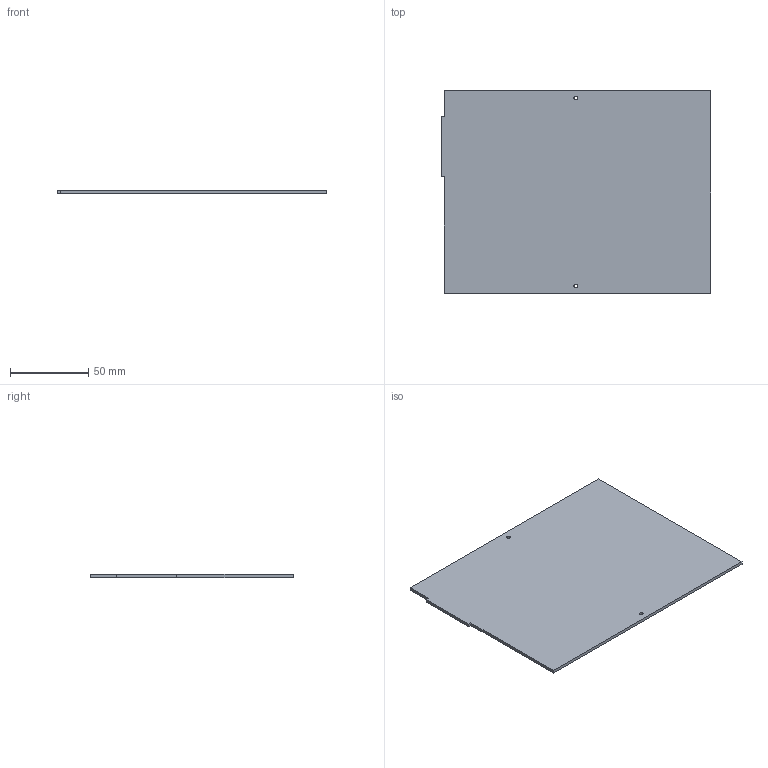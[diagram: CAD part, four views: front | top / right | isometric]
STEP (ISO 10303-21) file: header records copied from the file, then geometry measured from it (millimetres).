
FILE_DESCRIPTION (( 'STEP AP203' ), '1' );
FILE_NAME ('FOND_FINAL.STEP', '2017-12-18T11:58:19', ( '' ), ( '' ), 'SwSTEP 2.0', 'SolidWorks 2017', '' );
FILE_SCHEMA (( 'CONFIG_CONTROL_DESIGN' ));
Length unit declared in the file: millimetre
Products named in the file (1): FOND_FINAL
Bounding box: 172.26 x 129.68 x 2 mm (x, y, z)
Volume: 44301.4 mm3; surface area: 45539.4 mm2
Topology: 1 solids, 1 shells, 14 faces, 36 edges, 24 vertices
Faces by surface type: plane 10, cylinder 4
Entity records: 513 total; most frequent: CARTESIAN_POINT 75, DIRECTION 74, ORIENTED_EDGE 72, EDGE_CURVE 36, LINE 28, VECTOR 28, VERTEX_POINT 24, AXIS2_PLACEMENT_3D 23
